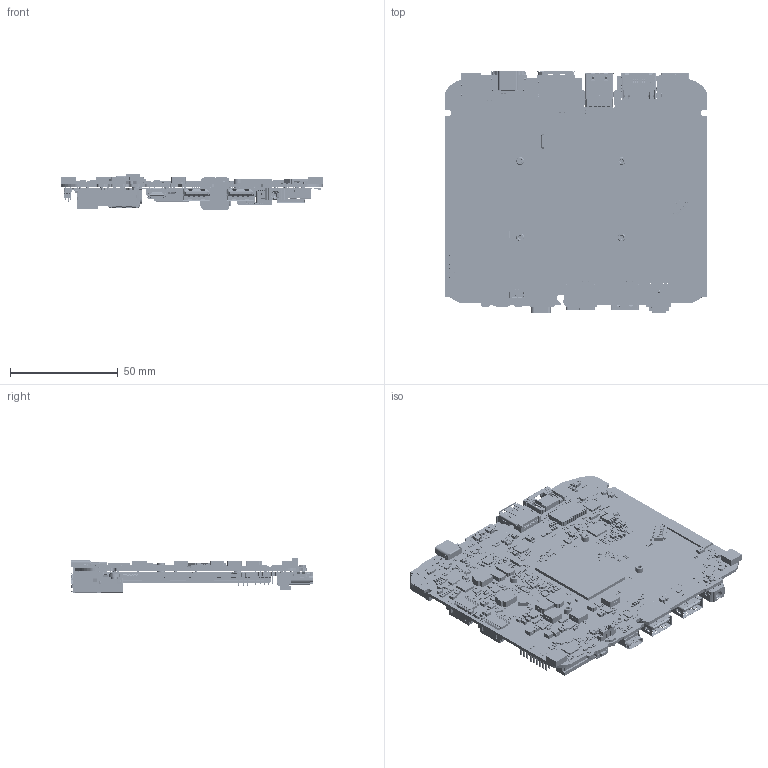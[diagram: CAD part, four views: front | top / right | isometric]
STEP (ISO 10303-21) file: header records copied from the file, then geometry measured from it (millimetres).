
FILE_DESCRIPTION((''),'2;1');
FILE_NAME('0821_IDF_ASM','2025-02-21T',('Yanbo_An'),(''),'PRO/ENGINEER BY PARAMETRIC TECHNOLOGY CORPORATION, 2014440','PRO/ENGINEER BY PARAMETRIC TECHNOLOGY CORPORATION, 2014440','');
FILE_SCHEMA(('AUTOMOTIVE_DESIGN { 1 0 10303 214 1 1 1 1 }'));
Products named in the file (150): 0821_IDF; A_LOGO_EMI_D33005_ROHS; TX_2R4P0201_35X28_SHORT; A_XTAL_4P_87X71_HELE; A_LOGO_RECYCLE_BATTERY; MX_USB_4P_4H_RA_S_VIT; TX_TRANS_24P_50_630X354; TX_R0402_SHORT; TX_R0805_SHORT; TX_R0603_SHORT; TX_R0201_SHORT; MX_USB_24P_10H_RA_LOT; A_LOGO_KC_S_Y8; TEXT_CE; FCC; TX_QFN_28P_18_S161_P_4V; TX_QFN_20P_20_161X122_PD_6V; HH_H_C236DO134X148_P2_S; A_QFN_40P_16_S209_P_4VIA; A_WTOB_9P_49_2H_HEF; T_A_SMT_NUT_CT177B67D49_SCRE; TPC22T_2P_102_68_EA; A_LOGO_WARNING_3X7D66; TX_R1206_H30; MX_WTOB_4P_49_2HOLD_XI; MX_LB1_LOGO_1575X157; TX_C7343_299X181_H83; MX_C3528_146X118_H79; MX_INDUCTOR_2P_299X268; MX_C7343D_299X181_H83; MARK_L; TX_DFN1006_2P_31_43X28_MCC; TX_QFN_20P_16_122X122_PD_WIL; MX_INDUCTOR_2P_106X87_CHILS; A_QFN_48P_16_S240_PD_PAR_4V; TX_XTAL_4P_130X102_HEL_H31; MX_VARISTOR_0402_H24; TX_C1206_T03_H55; TX_SOIC_28P_26_386X177; TX_BGA_128P_20_S280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
Assembly tree (1709 placements, depth 2):
  0821_IDF_ASM
    0821_IDF
    A_LOGO_EMI_D33005_ROHS
    TX_2R4P0201_35X28_SHORT  x16
    A_XTAL_4P_87X71_HELE
    A_LOGO_RECYCLE_BATTERY
    MX_USB_4P_4H_RA_S_VIT
    TX_TRANS_24P_50_630X354
    TX_R0402_SHORT  x68
    TX_R0805_SHORT  x10
    TX_R0603_SHORT  x5
    TX_R0201_SHORT  x18
    MX_USB_24P_10H_RA_LOT
    A_LOGO_KC_S_Y8
    TEXT_CE
    FCC
    TX_QFN_28P_18_S161_P_4V
    TX_QFN_20P_20_161X122_PD_6V
    HH_H_C236DO134X148_P2_S  x2
    A_QFN_40P_16_S209_P_4VIA
    A_WTOB_9P_49_2H_HEF  x2
    T_A_SMT_NUT_CT177B67D49_SCRE  x2
    TPC22T_2P_102_68_EA  x18
    A_LOGO_WARNING_3X7D66
    TX_R1206_H30  x5
    MX_WTOB_4P_49_2HOLD_XI
    MX_LB1_LOGO_1575X157
    TX_C7343_299X181_H83
    MX_C3528_146X118_H79
    MX_INDUCTOR_2P_299X268  x4
    MX_C7343D_299X181_H83
    MARK_L
    TX_DFN1006_2P_31_43X28_MCC
    TX_QFN_20P_16_122X122_PD_WIL
    MX_INDUCTOR_2P_106X87_CHILS
    A_QFN_48P_16_S240_PD_PAR_4V
    TX_XTAL_4P_130X102_HEL_H31
    MX_VARISTOR_0402_H24  x3
    TX_C1206_T03_H55
    TX_SOIC_28P_26_386X177  x2
    TX_BGA_128P_20_S280
    MX_HOLE_C236D157  x2
    MX_L1008_110X91  x2
    TX_QFN_19P_161X122_MPS
    TX_INDUCTO_2P_287X268_COLAY
    MX_DFN_8P_26_122X122_2PAD
    TX_CHOKE_4P_28X24_STD  x8
    MX_DISPLAY_20P_4H_RA_TCON
    TX_SOIC_8P_50_201X157_MXIC
    MX_DFN1006_2P_43X28_INPA_H22  x30
    TX_DDR5_262P_20_4H_LOT_H219
    MX_HD_1X3P_79_PINRX
    TX_DFN_10P_20_S122_P_2VI
    TX_SOT23_S5_2D4_122X71_H57
    TX_C7343_299X177_H83  x3
    A_QFN_32P_20_S201_PA
    TX_R0402_T015_H26  x3
    TX_R1206_T03_H35
    MX_LED_2P_67X35
    TX_LED_2P_67X35
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Bounding box: 122.01 x 112.62 x 17.16 mm (x, y, z)
Volume: 36598.2 mm3; surface area: 71842.9 mm2
Topology: 1729 solids, 1740 shells, 47530 faces, 126923 edges, 83356 vertices
Faces by surface type: plane 37795, cylinder 8689, bspline 439, torus 240, cone 238, extrusion 69, sphere 54, revolution 6
Entity records: 1293692 total; most frequent: CARTESIAN_POINT 215268, ORIENTED_EDGE 166304, DIRECTION 155958, EDGE_CURVE 83152, PRESENTATION_STYLE_ASSIGNMENT 76904, STYLED_ITEM 75064, CURVE_STYLE 74995, VECTOR 65070
